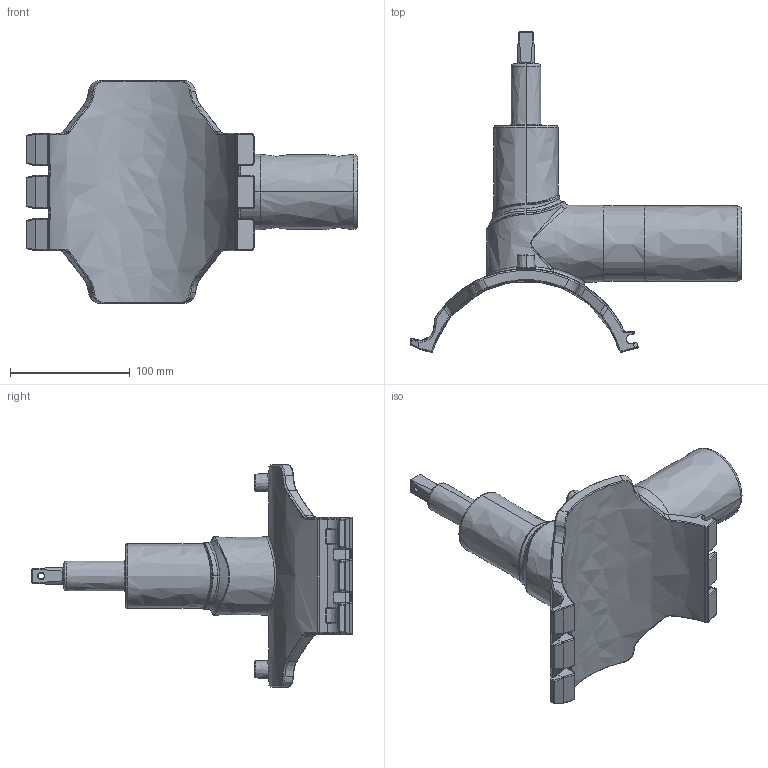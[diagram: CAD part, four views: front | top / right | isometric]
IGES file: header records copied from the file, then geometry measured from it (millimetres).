
Start section:  PTC IGES file: dav2_d160_63_01.igs
Global section: file name: dav2_d160_63_01.igs; native system: Creo Parametric by PTC Inc.; preprocessor: 2019030; author: demmerls; organization: Unknown; date: 20201127.113110; units: millimetre
Bounding box: 276.52 x 267.9 x 186 mm (x, y, z)
Surface area: 148841.6 mm2 (no closed solid volume)
Topology: 0 solids, 0 shells, 575 faces, 2790 edges, 2784 vertices
Faces by surface type: bspline 575
